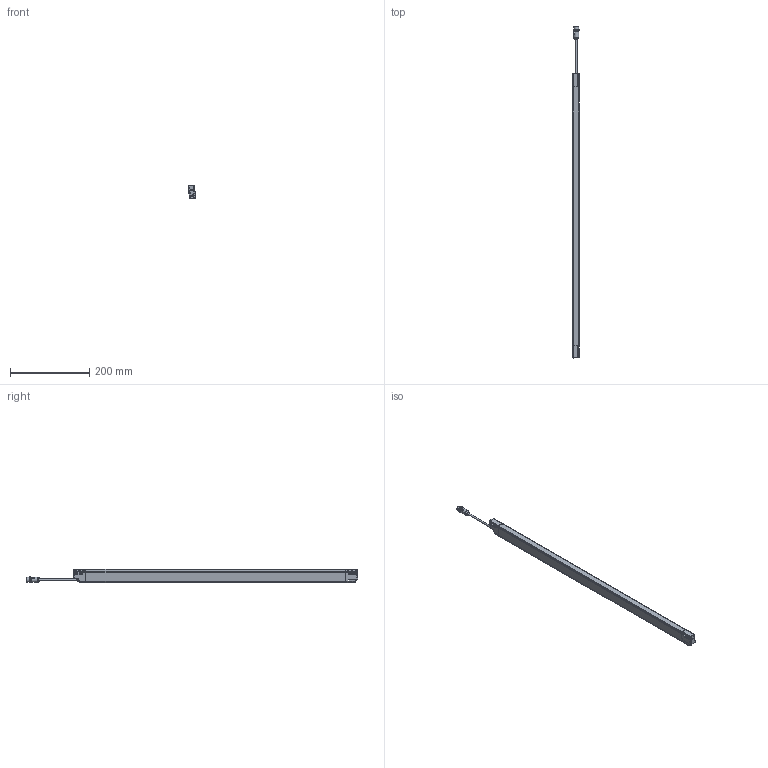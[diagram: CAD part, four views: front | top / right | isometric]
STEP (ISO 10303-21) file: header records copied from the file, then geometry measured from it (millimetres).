
FILE_DESCRIPTION(/* description */ (''),/* implementation_level */ '2;1');
FILE_NAME(/* name */ 'DSD-0639.stp',/* time_stamp */ '2015-02-23T17:34:26+01:00',/* author */ (''),/* organization */ (''),/* preprocessor_version */ 'ST-DEVELOPER v11',/* originating_system */ 'SIEMENS PLM Software NX 7.5',/* authorisation */ '');
FILE_SCHEMA (('AUTOMOTIVE_DESIGN { 1 0 10303 214 1 1 1 1 }'));
Length unit declared in the file: millimetre
Products named in the file (1): AP008121_00
Bounding box: 17.36 x 840.24 x 33.46 mm (x, y, z)
Surface area: 87628.7 mm2 (no closed solid volume)
Topology: 0 solids, 46 shells, 1082 faces, 3662 edges, 2504 vertices
Faces by surface type: cylinder 398, plane 318, bspline 151, torus 117, sphere 67, cone 31
Full cylindrical faces by diameter (mm): 1 x5, 1.2 x2, 2.6 x6, 4 x1, 8.3 x1, 9.4 x1, 10.4 x1, 12 x1, 13 x1, 13.5 x1, 14.5 x2
Entity records: 45296 total; most frequent: CARTESIAN_POINT 14276, DIRECTION 6645, ORIENTED_EDGE 5738, EDGE_CURVE 3552, AXIS2_PLACEMENT_3D 2507, VERTEX_POINT 2479, LINE 1631, VECTOR 1631
